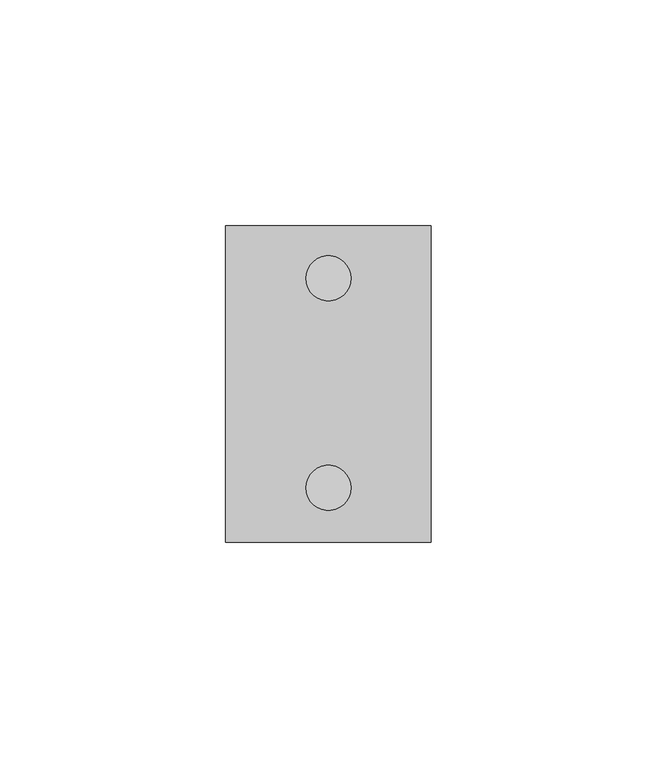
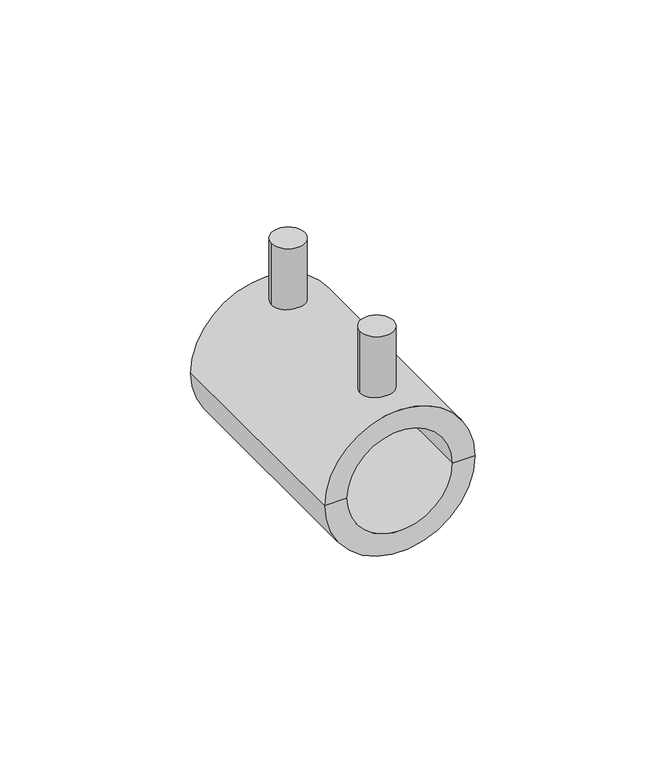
"""IFC4 building model written with IfcOpenShell, lengths in millimetres: pipe fitting geometry, NIRON RED electrico manguito : Estándar."""

from ifc_helpers import new_model, si_unit, point, frame, frame_2d, origin, place, context, project, spatial, polyline, circle_curve, trimmed, segment, composite_curve, outline, extrude, source, transform, mapped, element, save
from ifc_brep_helpers import plane_surface, cylinder_surface, revolved_surface, advanced_brep


def pipe_fitting_a753105d(model_context):
    return source(origin(), model_context, "Body", "SolidModel", [
        advanced_brep(
        [(22.75, 70.0, 0.0), (-22.75, 70.0, 0.0), (-16.0, 70.0, 0.0), (16.0, 70.0, 0.0), (22.75, 0.0, 0.0), (-22.75, 0.0, 0.0), (16.0, 0.0, 0.0), (-16.0, 0.0, 0.0), (16.0, 34.0, 0.0), (-16.0, 34.0, 0.0), (15.0, 34.0, 0.0), (-15.0, 34.0, 0.0), (15.0, 36.0, 0.0), (-15.0, 36.0, 0.0), (16.0, 36.0, 0.0), (-16.0, 36.0, 0.0)],
        [
            (0, 1, circle_curve(frame((0.0, 70.0, 0.0), z_axis=(0.0, 1.0, 0.0), x_axis=(-1.0, 0.0, 0.0)), 22.75)),
            (1, 2),
            (2, 3, circle_curve(frame((0.0, 70.0, 0.0), z_axis=(0.0, -1.0, 0.0), x_axis=(-1.0, 0.0, 0.0)), 16.0)),
            (3, 0),
            (1, 0, circle_curve(frame((0.0, 70.0, 0.0), z_axis=(0.0, 1.0, 0.0), x_axis=(-1.0, 0.0, 0.0)), 22.75)),
            (3, 2, circle_curve(frame((0.0, 70.0, 0.0), z_axis=(0.0, -1.0, 0.0), x_axis=(-1.0, 0.0, 0.0)), 16.0)),
            (4, 5, circle_curve(frame((0.0, 0.0, 0.0), z_axis=(0.0, 1.0, 0.0), x_axis=(-1.0, 0.0, 0.0)), 22.75)),
            (5, 1),
            (0, 4),
            (5, 4, circle_curve(frame((0.0, 0.0, 0.0), z_axis=(0.0, 1.0, 0.0), x_axis=(-1.0, 0.0, 0.0)), 22.75)),
            (6, 7, circle_curve(frame((0.0, 0.0, 0.0), z_axis=(0.0, 1.0, 0.0), x_axis=(-1.0, 0.0, 0.0)), 16.0)),
            (7, 5),
            (4, 6),
            (7, 6, circle_curve(frame((0.0, 0.0, 0.0), z_axis=(0.0, 1.0, 0.0), x_axis=(-1.0, 0.0, 0.0)), 16.0)),
            (8, 9, circle_curve(frame((0.0, 34.0, 0.0), z_axis=(0.0, 1.0, 0.0), x_axis=(-1.0, 0.0, 0.0)), 16.0)),
            (9, 7),
            (6, 8),
            (9, 8, circle_curve(frame((0.0, 34.0, 0.0), z_axis=(0.0, 1.0, 0.0), x_axis=(-1.0, 0.0, 0.0)), 16.0)),
            (10, 11, circle_curve(frame((0.0, 34.0, 0.0), z_axis=(0.0, 1.0, 0.0), x_axis=(-1.0, 0.0, 0.0)), 15.0)),
            (11, 9),
            (8, 10),
            (11, 10, circle_curve(frame((0.0, 34.0, 0.0), z_axis=(0.0, 1.0, 0.0), x_axis=(-1.0, 0.0, 0.0)), 15.0)),
            (12, 13, circle_curve(frame((0.0, 36.0, 0.0), z_axis=(0.0, 1.0, 0.0), x_axis=(-1.0, 0.0, 0.0)), 15.0)),
            (13, 11),
            (10, 12),
            (13, 12, circle_curve(frame((0.0, 36.0, 0.0), z_axis=(0.0, 1.0, 0.0), x_axis=(-1.0, 0.0, 0.0)), 15.0)),
            (14, 15, circle_curve(frame((0.0, 36.0, 0.0), z_axis=(0.0, 1.0, 0.0), x_axis=(-1.0, 0.0, 0.0)), 16.0)),
            (15, 13),
            (12, 14),
            (15, 14, circle_curve(frame((0.0, 36.0, 0.0), z_axis=(0.0, 1.0, 0.0), x_axis=(-1.0, 0.0, 0.0)), 16.0)),
            (2, 15),
            (14, 3),
        ],
        [
            plane_surface(frame((0.0, 70.0, 0.0), z_axis=(0.0, 1.0, 0.0), x_axis=(-1.0, 0.0, 0.0))),
            cylinder_surface(frame((0.0, 95.0, 0.0), z_axis=(0.0, -1.0, 0.0), x_axis=(-1.0, 0.0, 0.0)), 22.75),
            plane_surface(frame((0.0, 0.0, 0.0), z_axis=(0.0, -1.0, 0.0), x_axis=(-1.0, 0.0, 0.0))),
            revolved_surface(polyline([(-16.0, 0.0, 0.0), (-16.0, 34.0, 0.0)]), (0.0, 95.0, 0.0), (0.0, -1.0, 0.0)),
            plane_surface(frame((0.0, 34.0, 0.0), z_axis=(0.0, -1.0, 0.0), x_axis=(-1.0, 0.0, 0.0))),
            revolved_surface(polyline([(-15.0, 34.0, 0.0), (-15.0, 36.0, 0.0)]), (0.0, 95.0, 0.0), (0.0, -1.0, 0.0)),
            plane_surface(frame((0.0, 36.0, 0.0), z_axis=(0.0, 1.0, 0.0), x_axis=(-1.0, 0.0, 0.0))),
            revolved_surface(polyline([(-16.0, 36.0, 0.0), (-16.0, 70.0, 0.0)]), (0.0, 95.0, 0.0), (0.0, -1.0, 0.0)),
        ],
        [
            (0, [[1, 2, 3, 4]]),
            (0, [[5, -4, 6, -2]]),
            (1, [[7, 8, -1, 9]]),
            (1, [[10, -9, -5, -8]]),
            (2, [[11, 12, -7, 13]]),
            (2, [[14, -13, -10, -12]]),
            (3, [[15, 16, -11, 17]]),
            (3, [[18, -17, -14, -16]]),
            (4, [[19, 20, -15, 21]]),
            (4, [[22, -21, -18, -20]]),
            (5, [[23, 24, -19, 25]]),
            (5, [[26, -25, -22, -24]]),
            (6, [[27, 28, -23, 29]]),
            (6, [[30, -29, -26, -28]]),
            (7, [[-3, 31, -27, 32]]),
            (7, [[-6, -32, -30, -31]]),
        ],
    ),
        extrude(outline(composite_curve([segment(trimmed(circle_curve(frame_2d((0.0, 12.0)), 5.0), [point((-5.0, 12.0))], [point((5.0, 12.0))], False, "CARTESIAN"), True, "CONTINUOUS"), segment(trimmed(circle_curve(frame_2d((0.0, 12.0)), 5.0), [point((5.0, 12.0))], [point((-5.0, 12.0))], False, "CARTESIAN"), True, "CONTINUOUS")], self_intersect=False)), frame((0.0, 0.0, 19.75), z_axis=(0.0, 0.0, 1.0), x_axis=(1.0, 0.0, 0.0)), (0.0, 0.0, 1.0), 22.5),
        extrude(outline(composite_curve([segment(trimmed(circle_curve(frame_2d((0.0, 58.3742842)), 5.0), [point((-5.0, 58.3742842))], [point((5.0, 58.3742842))], False, "CARTESIAN"), True, "CONTINUOUS"), segment(trimmed(circle_curve(frame_2d((0.0, 58.3742842)), 5.0), [point((5.0, 58.3742842))], [point((-5.0, 58.3742842))], False, "CARTESIAN"), True, "CONTINUOUS")], self_intersect=False)), frame((0.0, 0.0, 19.75), z_axis=(0.0, 0.0, 1.0), x_axis=(1.0, 0.0, 0.0)), (0.0, 0.0, 1.0), 22.5),
    ])


if __name__ == "__main__":
    model = new_model("IFC4")
    model_context = context("Model", 3, world=origin())
    ifc_project = project(units=[si_unit("LENGTHUNIT", "METRE", prefix="MILLI")], contexts=[model_context])
    site = spatial("IfcSite", under=ifc_project)
    building = spatial("IfcBuilding", under=site)
    placement = place(None, origin())
    pipe_fitting_shape = pipe_fitting_a753105d(model_context)
    element("IfcPipeFitting", 1, ObjectType="NIRON RED electrico manguito : Estándar", at=placement, inside=building, context=model_context, shape_type="MappedRepresentation", body=[
        mapped(pipe_fitting_shape, transform((0.0, 0.0, 0.0), x_axis=(1.0, 0.0, 0.0), y_axis=(0.0, 1.0, 0.0), z_axis=(0.0, 0.0, 1.0))),
    ])
    save(model, "model.ifc")
